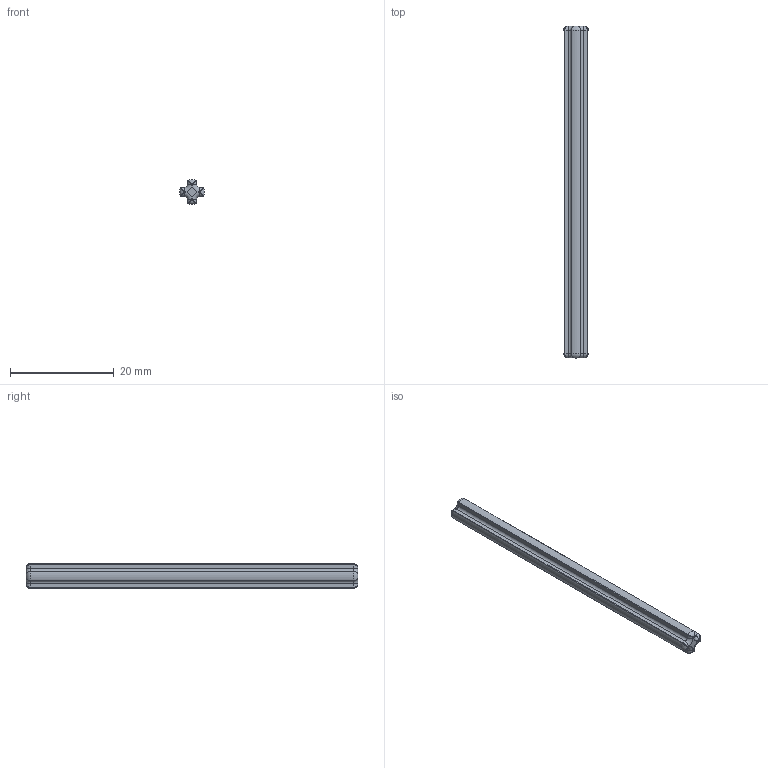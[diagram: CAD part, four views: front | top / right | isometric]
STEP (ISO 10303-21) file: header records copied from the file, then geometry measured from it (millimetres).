
FILE_DESCRIPTION(/* description */ ('Unknown'),/* implementation_level */ '2;1');
FILE_NAME(/* name */ 'Black_370726_JCA',/* time_stamp */ '2025-07-21T23:43:06+02:00',/* author */ ('Unknown'),/* organization */ ('Unknown'),/* preprocessor_version */ 'ST-DEVELOPER v19.4',/* originating_system */ 'Solid Edge',/* authorisation */ 'Unknown');
FILE_SCHEMA (('AUTOMOTIVE_DESIGN {1 0 10303 214 3 1 1}'));
Length unit declared in the file: millimetre
Products named in the file (1): Black_370726_JCA
Bounding box: 4.79 x 64 x 4.79 mm (x, y, z)
Volume: 881 mm3; surface area: 1102.4 mm2
Topology: 1 solids, 1 shells, 74 faces, 168 edges, 80 vertices
Faces by surface type: cylinder 32, torus 16, bspline 16, plane 10
Entity records: 2142 total; most frequent: CARTESIAN_POINT 659, ORIENTED_EDGE 304, DIRECTION 302, EDGE_CURVE 152, AXIS2_PLACEMENT_3D 123, VERTEX_POINT 80, EDGE_LOOP 74, FACE_BOUND 74
